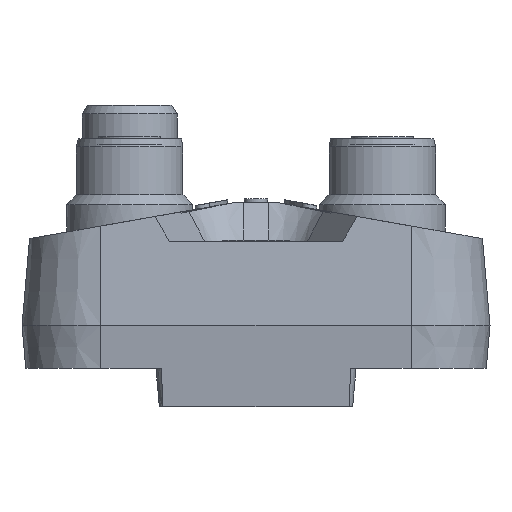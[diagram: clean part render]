
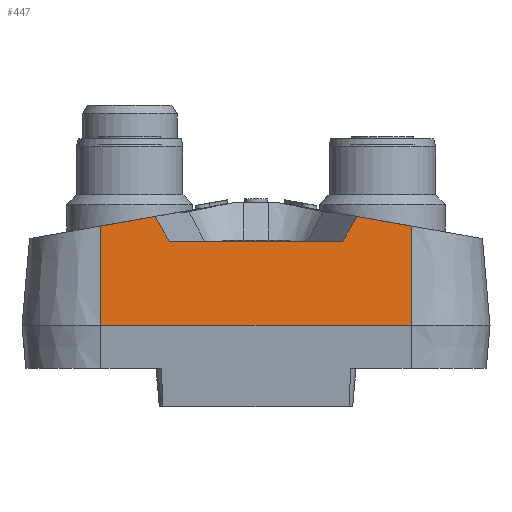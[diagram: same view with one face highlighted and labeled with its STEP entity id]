
A CAD part, front view. The second image highlights one B-rep face of the part: STEP entity #447.
In plain terms, the highlighted planar face has unit normal (0, -0.996, 0.087).
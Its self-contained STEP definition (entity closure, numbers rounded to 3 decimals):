
#447 = ADVANCED_FACE( '', ( #1362 ), #1363, .T. );
#1362 = FACE_OUTER_BOUND( '', #2289, .T. );
#1363 = PLANE( '', #2290 );
#2289 = EDGE_LOOP( '', ( #4940, #4941, #4942, #4943, #4944, #4945, #4946, #4947 ) );
#2290 = AXIS2_PLACEMENT_3D( '', #4948, #4949, #4950 );
#4940 = ORIENTED_EDGE( '', *, *, #5439, .F. );
#4941 = ORIENTED_EDGE( '', *, *, #5808, .F. );
#4942 = ORIENTED_EDGE( '', *, *, #5800, .T. );
#4943 = ORIENTED_EDGE( '', *, *, #5075, .T. );
#4944 = ORIENTED_EDGE( '', *, *, #5797, .F. );
#4945 = ORIENTED_EDGE( '', *, *, #5809, .F. );
#4946 = ORIENTED_EDGE( '', *, *, #5444, .F. );
#4947 = ORIENTED_EDGE( '', *, *, #5433, .F. );
#4948 = CARTESIAN_POINT( '', ( -19.65, 0., 0. ) );
#4949 = DIRECTION( '', ( 0., -0.996, 0.087 ) );
#4950 = DIRECTION( '', ( 0., -0.087, -0.996 ) );
#5075 = EDGE_CURVE( '', #5880, #5887, #5889, .T. );
#5433 = EDGE_CURVE( '', #6541, #6542, #6543, .F. );
#5439 = EDGE_CURVE( '', #6553, #6541, #6554, .F. );
#5444 = EDGE_CURVE( '', #6542, #6562, #6563, .F. );
#5797 = EDGE_CURVE( '', #7127, #5887, #7129, .T. );
#5800 = EDGE_CURVE( '', #7131, #5880, #7134, .T. );
#5808 = EDGE_CURVE( '', #7131, #6553, #7142, .F. );
#5809 = EDGE_CURVE( '', #6562, #7127, #7143, .F. );
#5880 = VERTEX_POINT( '', #7245 );
#5887 = VERTEX_POINT( '', #7260 );
#5889 = LINE( '', #7263, #7264 );
#6541 = VERTEX_POINT( '', #8093 );
#6542 = VERTEX_POINT( '', #8094 );
#6543 = LINE( '', #8095, #8096 );
#6553 = VERTEX_POINT( '', #8109 );
#6554 = LINE( '', #8110, #8111 );
#6562 = VERTEX_POINT( '', #8123 );
#6563 = LINE( '', #8124, #8125 );
#7127 = VERTEX_POINT( '', #8859 );
#7129 = LINE( '', #8861, #8862 );
#7131 = VERTEX_POINT( '', #8864 );
#7134 = LINE( '', #8868, #8869 );
#7142 = LINE( '', #8884, #8885 );
#7143 = LINE( '', #8886, #8887 );
#7245 = CARTESIAN_POINT( '', ( -19.65, 0., 0. ) );
#7260 = CARTESIAN_POINT( '', ( 19.65, 0., 0. ) );
#7263 = CARTESIAN_POINT( '', ( -19.65, 0., 0. ) );
#7264 = VECTOR( '', #8971, 1000. );
#8093 = CARTESIAN_POINT( '', ( -10.98, 0.932, 10.65 ) );
#8094 = CARTESIAN_POINT( '', ( 10.98, 0.932, 10.65 ) );
#8095 = CARTESIAN_POINT( '', ( -19.65, 0.932, 10.65 ) );
#8096 = VECTOR( '', #9707, 1000. );
#8109 = CARTESIAN_POINT( '', ( -12.816, 1.205, 13.775 ) );
#8110 = CARTESIAN_POINT( '', ( -8.531, 0.567, 6.481 ) );
#8111 = VECTOR( '', #9717, 1000. );
#8123 = CARTESIAN_POINT( '', ( 12.816, 1.205, 13.775 ) );
#8124 = CARTESIAN_POINT( '', ( -1.492, -0.926, -10.584 ) );
#8125 = VECTOR( '', #9722, 1000. );
#8859 = CARTESIAN_POINT( '', ( 19.65, 1.1, 12.57 ) );
#8861 = CARTESIAN_POINT( '', ( 19.65, 0., 0. ) );
#8862 = VECTOR( '', #10439, 1000. );
#8864 = CARTESIAN_POINT( '', ( -19.65, 1.1, 12.57 ) );
#8868 = CARTESIAN_POINT( '', ( -19.65, 0., 0. ) );
#8869 = VECTOR( '', #10444, 1000. );
#8884 = CARTESIAN_POINT( '', ( -21.816, 1.066, 12.188 ) );
#8885 = VECTOR( '', #10452, 1000. );
#8886 = CARTESIAN_POINT( '', ( -16.291, 1.654, 18.907 ) );
#8887 = VECTOR( '', #10453, 1000. );
#8971 = DIRECTION( '', ( 1., 0., 0. ) );
#9707 = DIRECTION( '', ( -1., 0., 0. ) );
#9717 = DIRECTION( '', ( -0.505, 0.075, 0.86 ) );
#9722 = DIRECTION( '', ( -0.505, -0.075, -0.86 ) );
#10439 = DIRECTION( '', ( 0., -0.087, -0.996 ) );
#10444 = DIRECTION( '', ( 0., -0.087, -0.996 ) );
#10452 = DIRECTION( '', ( -0.985, -0.015, -0.174 ) );
#10453 = DIRECTION( '', ( -0.985, 0.015, 0.174 ) );
